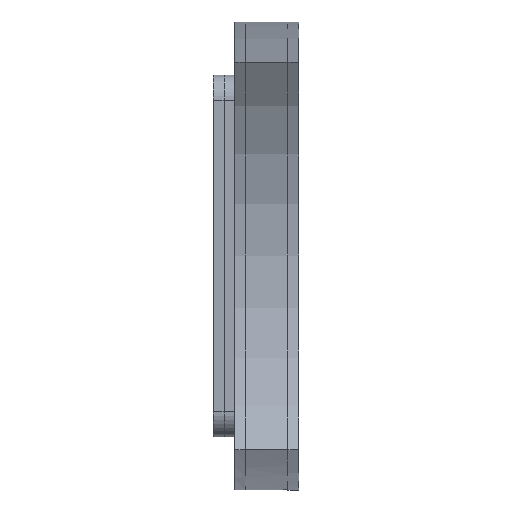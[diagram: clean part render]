
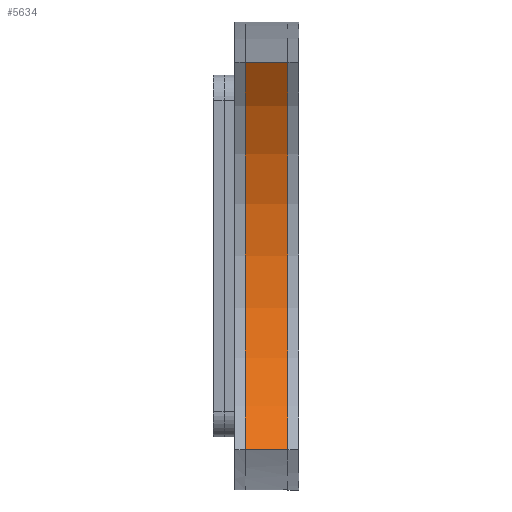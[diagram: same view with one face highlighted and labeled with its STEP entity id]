
A CAD part, left-side view. The second image highlights one B-rep face of the part: STEP entity #5634.
In plain terms, the highlighted cylindrical face has radius 385.349 mm (diameter 770.697 mm), a partial arc.
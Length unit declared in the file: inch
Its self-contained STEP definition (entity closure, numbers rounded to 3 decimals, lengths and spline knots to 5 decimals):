
#27 = CARTESIAN_POINT ( 'NONE',  ( -7.21361, 1.5, -14.1021 ) ) ;
#247 = DIRECTION ( 'NONE',  ( 0., 0., 1. ) ) ;
#320 = CARTESIAN_POINT ( 'NONE',  ( -7.21361, 2.5, -14.1021 ) ) ;
#428 = VERTEX_POINT ( 'NONE', #320 ) ;
#432 = CARTESIAN_POINT ( 'NONE',  ( -7.21361, 2.5, 4.08834 ) ) ;
#1155 = DIRECTION ( 'NONE',  ( 0., -1., 0. ) ) ;
#1701 = EDGE_CURVE ( 'NONE', #4665, #4393, #2005, .T. ) ;
#2005 = LINE ( 'NONE', #5058, #4386 ) ;
#2162 = ORIENTED_EDGE ( 'NONE', *, *, #2613, .T. ) ;
#2230 = EDGE_CURVE ( 'NONE', #428, #4665, #5374, .T. ) ;
#2348 = CARTESIAN_POINT ( 'NONE',  ( -19.3562, 2.5, -5.00688 ) ) ;
#2535 = CARTESIAN_POINT ( 'NONE',  ( -7.21361, 0.5, -14.1021 ) ) ;
#2536 = EDGE_LOOP ( 'NONE', ( #3734, #5454, #3037, #2162 ) ) ;
#2539 = DIRECTION ( 'NONE',  ( 0., -1., 0. ) ) ;
#2613 = EDGE_CURVE ( 'NONE', #428, #5088, #3149, .T. ) ;
#2890 = CYLINDRICAL_SURFACE ( 'NONE', #2957, 15.17121 ) ;
#2957 = AXIS2_PLACEMENT_3D ( 'NONE', #5163, #2539, #4283 ) ;
#3037 = ORIENTED_EDGE ( 'NONE', *, *, #2230, .F. ) ;
#3121 = AXIS2_PLACEMENT_3D ( 'NONE', #3819, #1155, #247 ) ;
#3149 = LINE ( 'NONE', #27, #3880 ) ;
#3253 = CARTESIAN_POINT ( 'NONE',  ( -7.21361, 0.5, 4.08834 ) ) ;
#3297 = CIRCLE ( 'NONE', #3121, 15.17121 ) ;
#3563 = AXIS2_PLACEMENT_3D ( 'NONE', #2348, #4173, #5365 ) ;
#3734 = ORIENTED_EDGE ( 'NONE', *, *, #5106, .T. ) ;
#3819 = CARTESIAN_POINT ( 'NONE',  ( -19.3562, 0.5, -5.00688 ) ) ;
#3880 = VECTOR ( 'NONE', #4437, 39.37008 ) ;
#4173 = DIRECTION ( 'NONE',  ( 0., -1., 0. ) ) ;
#4283 = DIRECTION ( 'NONE',  ( 0., 0., -1. ) ) ;
#4386 = VECTOR ( 'NONE', #4545, 39.37008 ) ;
#4393 = VERTEX_POINT ( 'NONE', #3253 ) ;
#4437 = DIRECTION ( 'NONE',  ( 0., -1., 0. ) ) ;
#4545 = DIRECTION ( 'NONE',  ( 0., -1., 0. ) ) ;
#4665 = VERTEX_POINT ( 'NONE', #432 ) ;
#5058 = CARTESIAN_POINT ( 'NONE',  ( -7.21361, 1.5, 4.08834 ) ) ;
#5088 = VERTEX_POINT ( 'NONE', #2535 ) ;
#5106 = EDGE_CURVE ( 'NONE', #5088, #4393, #3297, .T. ) ;
#5163 = CARTESIAN_POINT ( 'NONE',  ( -19.3562, 2.5, -5.00688 ) ) ;
#5365 = DIRECTION ( 'NONE',  ( 0., 0., 1. ) ) ;
#5374 = CIRCLE ( 'NONE', #3563, 15.17121 ) ;
#5454 = ORIENTED_EDGE ( 'NONE', *, *, #1701, .F. ) ;
#5500 = FACE_OUTER_BOUND ( 'NONE', #2536, .T. ) ;
#5634 = ADVANCED_FACE ( 'NONE', ( #5500 ), #2890, .F. ) ;
